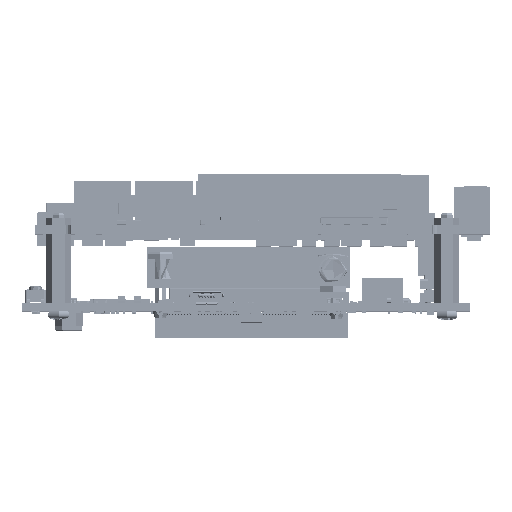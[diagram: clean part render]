
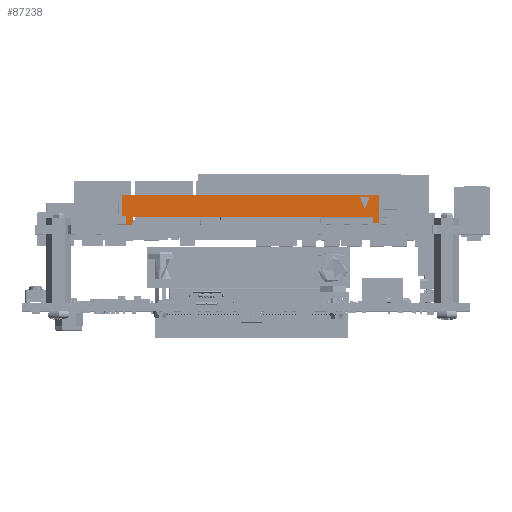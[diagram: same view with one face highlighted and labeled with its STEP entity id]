
A CAD part, top view. The second image highlights one B-rep face of the part: STEP entity #87238.
In plain terms, the highlighted planar face has unit normal (0, 0, 1).
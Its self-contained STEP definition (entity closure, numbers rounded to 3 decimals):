
#4824 = LINE ( 'NONE', #325518, #904822 ) ;
#50218 = CARTESIAN_POINT ( 'NONE',  ( 25.781, 4.318, 6.642 ) ) ;
#59090 = DIRECTION ( 'NONE',  ( 1., 0., 0. ) ) ;
#59935 = VERTEX_POINT ( 'NONE', #485265 ) ;
#66951 = CARTESIAN_POINT ( 'NONE',  ( 24.765, 1.778, 6.642 ) ) ;
#68783 = DIRECTION ( 'NONE',  ( -1., 0., 0. ) ) ;
#73243 = ORIENTED_EDGE ( 'NONE', *, *, #539171, .T. ) ;
#74329 = EDGE_CURVE ( 'NONE', #246591, #367046, #386292, .T. ) ;
#87238 = ADVANCED_FACE ( 'NONE', ( #1196426, #793692 ), #132323, .T. ) ;
#89458 = VECTOR ( 'NONE', #736813, 1000. ) ;
#106229 = CARTESIAN_POINT ( 'NONE',  ( 27.889, 4.826, 6.642 ) ) ;
#108937 = DIRECTION ( 'NONE',  ( 0.371, -0.928, 0. ) ) ;
#111084 = EDGE_CURVE ( 'NONE', #914234, #59935, #745362, .T. ) ;
#132323 = PLANE ( 'NONE',  #1237315 ) ;
#153606 = CARTESIAN_POINT ( 'NONE',  ( 26.619, -1.727, 6.642 ) ) ;
#159607 = VERTEX_POINT ( 'NONE', #960119 ) ;
#165988 = DIRECTION ( 'NONE',  ( 0., -1., 0. ) ) ;
#192418 = CARTESIAN_POINT ( 'NONE',  ( -27.889, 0.279, 6.642 ) ) ;
#198186 = ORIENTED_EDGE ( 'NONE', *, *, #583816, .T. ) ;
#204075 = DIRECTION ( 'NONE',  ( 0., 1., 0. ) ) ;
#213084 = LINE ( 'NONE', #372223, #989187 ) ;
#215701 = EDGE_LOOP ( 'NONE', ( #796645, #1224380, #73243, #468125, #198186, #1182462, #349761, #1074737, #690963, #252065 ) ) ;
#235139 = CARTESIAN_POINT ( 'NONE',  ( -26.492, -1.727, 6.642 ) ) ;
#246591 = VERTEX_POINT ( 'NONE', #1086113 ) ;
#251768 = VERTEX_POINT ( 'NONE', #839707 ) ;
#252065 = ORIENTED_EDGE ( 'NONE', *, *, #111084, .T. ) ;
#283177 = ORIENTED_EDGE ( 'NONE', *, *, #74329, .F. ) ;
#308136 = EDGE_CURVE ( 'NONE', #251768, #1094388, #549744, .T. ) ;
#319987 = VERTEX_POINT ( 'NONE', #1227644 ) ;
#323427 = CARTESIAN_POINT ( 'NONE',  ( 27.889, -1.727, 6.642 ) ) ;
#324525 = EDGE_LOOP ( 'NONE', ( #957695, #874175, #283177 ) ) ;
#325518 = CARTESIAN_POINT ( 'NONE',  ( 24.765, 1.778, 6.642 ) ) ;
#335523 = EDGE_CURVE ( 'NONE', #821390, #914234, #777144, .T. ) ;
#349761 = ORIENTED_EDGE ( 'NONE', *, *, #308136, .T. ) ;
#350115 = CARTESIAN_POINT ( 'NONE',  ( 26.619, -1.727, 6.642 ) ) ;
#356676 = EDGE_CURVE ( 'NONE', #507043, #246591, #931551, .T. ) ;
#367046 = VERTEX_POINT ( 'NONE', #66951 ) ;
#372223 = CARTESIAN_POINT ( 'NONE',  ( -26.492, 0., 6.642 ) ) ;
#382429 = CARTESIAN_POINT ( 'NONE',  ( -27.889, -1.727, 6.642 ) ) ;
#386292 = LINE ( 'NONE', #764037, #681176 ) ;
#414482 = EDGE_CURVE ( 'NONE', #319987, #604923, #547850, .T. ) ;
#417809 = EDGE_CURVE ( 'NONE', #1094388, #821390, #1016418, .T. ) ;
#442934 = CARTESIAN_POINT ( 'NONE',  ( 26.619, 0., 6.642 ) ) ;
#461819 = LINE ( 'NONE', #474265, #626909 ) ;
#468125 = ORIENTED_EDGE ( 'NONE', *, *, #932058, .T. ) ;
#474265 = CARTESIAN_POINT ( 'NONE',  ( -28.727, 4.826, 6.642 ) ) ;
#485265 = CARTESIAN_POINT ( 'NONE',  ( -28.727, 4.826, 6.642 ) ) ;
#505212 = LINE ( 'NONE', #794868, #579618 ) ;
#507043 = VERTEX_POINT ( 'NONE', #1205011 ) ;
#524858 = DIRECTION ( 'NONE',  ( 0., 1., 0. ) ) ;
#526839 = DIRECTION ( 'NONE',  ( 0.371, 0.928, 0. ) ) ;
#539171 = EDGE_CURVE ( 'NONE', #604923, #813248, #1036514, .T. ) ;
#547850 = LINE ( 'NONE', #718194, #89458 ) ;
#549744 = LINE ( 'NONE', #442934, #910733 ) ;
#579618 = VECTOR ( 'NONE', #807211, 1000. ) ;
#583816 = EDGE_CURVE ( 'NONE', #159607, #648515, #902787, .T. ) ;
#604923 = VERTEX_POINT ( 'NONE', #925207 ) ;
#626150 = CARTESIAN_POINT ( 'NONE',  ( 27.889, 4.826, 6.642 ) ) ;
#626909 = VECTOR ( 'NONE', #165988, 1000. ) ;
#648515 = VERTEX_POINT ( 'NONE', #650944 ) ;
#650944 = CARTESIAN_POINT ( 'NONE',  ( -26.492, 0., 6.642 ) ) ;
#681176 = VECTOR ( 'NONE', #108937, 1000. ) ;
#690963 = ORIENTED_EDGE ( 'NONE', *, *, #335523, .T. ) ;
#695930 = EDGE_CURVE ( 'NONE', #59935, #319987, #461819, .T. ) ;
#698245 = VECTOR ( 'NONE', #68783, 1000. ) ;
#718194 = CARTESIAN_POINT ( 'NONE',  ( -28.727, 0.279, 6.642 ) ) ;
#736813 = DIRECTION ( 'NONE',  ( 1., 0., 0. ) ) ;
#737448 = VECTOR ( 'NONE', #524858, 1000. ) ;
#745362 = LINE ( 'NONE', #626150, #930740 ) ;
#764037 = CARTESIAN_POINT ( 'NONE',  ( 23.749, 4.318, 6.642 ) ) ;
#777144 = LINE ( 'NONE', #323427, #903304 ) ;
#793692 = FACE_BOUND ( 'NONE', #324525, .T. ) ;
#794868 = CARTESIAN_POINT ( 'NONE',  ( -27.889, -1.727, 6.642 ) ) ;
#796645 = ORIENTED_EDGE ( 'NONE', *, *, #695930, .T. ) ;
#796841 = VECTOR ( 'NONE', #59090, 1000. ) ;
#807211 = DIRECTION ( 'NONE',  ( 1., 0., 0. ) ) ;
#813248 = VERTEX_POINT ( 'NONE', #382429 ) ;
#821390 = VERTEX_POINT ( 'NONE', #1091529 ) ;
#839707 = CARTESIAN_POINT ( 'NONE',  ( 26.619, 0., 6.642 ) ) ;
#845520 = DIRECTION ( 'NONE',  ( 0., -1., 0. ) ) ;
#874175 = ORIENTED_EDGE ( 'NONE', *, *, #1026769, .F. ) ;
#894395 = CARTESIAN_POINT ( 'NONE',  ( 0., 0., 6.642 ) ) ;
#902787 = LINE ( 'NONE', #235139, #737448 ) ;
#903304 = VECTOR ( 'NONE', #204075, 1000. ) ;
#904822 = VECTOR ( 'NONE', #526839, 1000. ) ;
#910733 = VECTOR ( 'NONE', #845520, 1000. ) ;
#914234 = VERTEX_POINT ( 'NONE', #106229 ) ;
#925207 = CARTESIAN_POINT ( 'NONE',  ( -27.889, 0.279, 6.642 ) ) ;
#930740 = VECTOR ( 'NONE', #1129550, 1000. ) ;
#931551 = LINE ( 'NONE', #50218, #698245 ) ;
#932058 = EDGE_CURVE ( 'NONE', #813248, #159607, #505212, .T. ) ;
#957695 = ORIENTED_EDGE ( 'NONE', *, *, #356676, .F. ) ;
#960119 = CARTESIAN_POINT ( 'NONE',  ( -26.492, -1.727, 6.642 ) ) ;
#989187 = VECTOR ( 'NONE', #1164102, 1000. ) ;
#1001261 = DIRECTION ( 'NONE',  ( 1., 0., 0. ) ) ;
#1016418 = LINE ( 'NONE', #153606, #796841 ) ;
#1026769 = EDGE_CURVE ( 'NONE', #367046, #507043, #4824, .T. ) ;
#1030186 = EDGE_CURVE ( 'NONE', #648515, #251768, #213084, .T. ) ;
#1036514 = LINE ( 'NONE', #192418, #1240203 ) ;
#1074737 = ORIENTED_EDGE ( 'NONE', *, *, #417809, .T. ) ;
#1086113 = CARTESIAN_POINT ( 'NONE',  ( 23.749, 4.318, 6.642 ) ) ;
#1091529 = CARTESIAN_POINT ( 'NONE',  ( 27.889, -1.727, 6.642 ) ) ;
#1094388 = VERTEX_POINT ( 'NONE', #350115 ) ;
#1129550 = DIRECTION ( 'NONE',  ( -1., 0., 0. ) ) ;
#1137231 = DIRECTION ( 'NONE',  ( 0., -1., 0. ) ) ;
#1164102 = DIRECTION ( 'NONE',  ( 1., 0., 0. ) ) ;
#1177882 = DIRECTION ( 'NONE',  ( 0., 0., 1. ) ) ;
#1182462 = ORIENTED_EDGE ( 'NONE', *, *, #1030186, .T. ) ;
#1196426 = FACE_OUTER_BOUND ( 'NONE', #215701, .T. ) ;
#1205011 = CARTESIAN_POINT ( 'NONE',  ( 25.781, 4.318, 6.642 ) ) ;
#1224380 = ORIENTED_EDGE ( 'NONE', *, *, #414482, .T. ) ;
#1227644 = CARTESIAN_POINT ( 'NONE',  ( -28.727, 0.279, 6.642 ) ) ;
#1237315 = AXIS2_PLACEMENT_3D ( 'NONE', #894395, #1177882, #1001261 ) ;
#1240203 = VECTOR ( 'NONE', #1137231, 1000. ) ;
